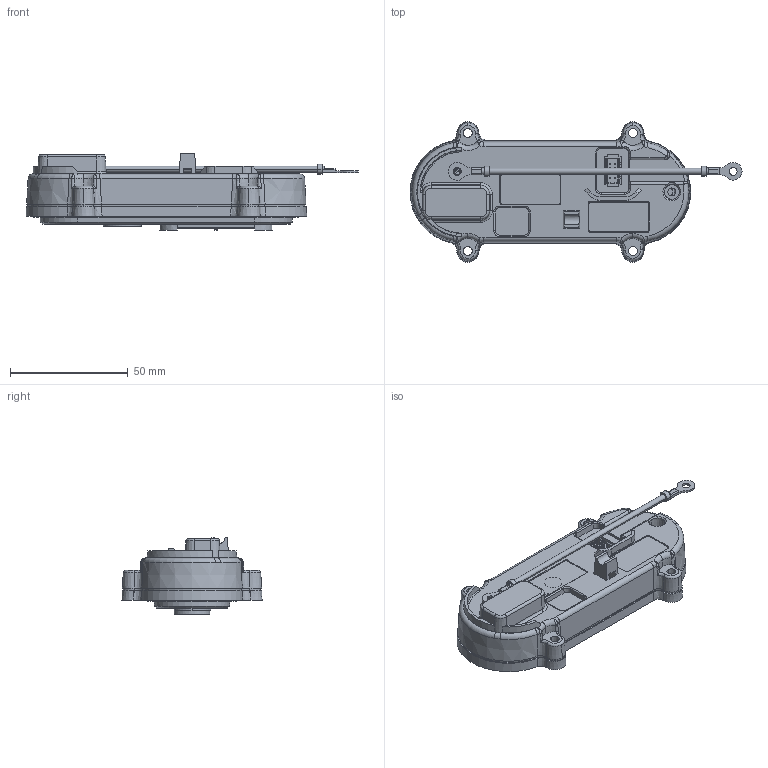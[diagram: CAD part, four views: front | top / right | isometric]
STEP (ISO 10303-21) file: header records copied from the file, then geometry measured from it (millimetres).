
FILE_DESCRIPTION (( 'STEP AP214' ), '1' );
FILE_NAME ('Nav-Bar Audio Module (horz).STEP', '2017-01-10T11:16:47', ( '' ), ( '' ), 'SwSTEP 2.0', 'SolidWorks 2016', '' );
FILE_SCHEMA (( 'AUTOMOTIVE_DESIGN' ));
Length unit declared in the file: millimetre
Products named in the file (1): Nav-Bar Audio Module (horz)
Bounding box: 140.75 x 59.5 x 32.3 mm (x, y, z)
Surface area: 31481.8 mm2 (no closed solid volume)
Topology: 0 solids, 25 shells, 658 faces, 2208 edges, 1565 vertices
Faces by surface type: plane 282, cone 161, cylinder 88, bspline 76, torus 51
Entity records: 34393 total; most frequent: CARTESIAN_POINT 8702, ORIENTED_EDGE 3676, DIRECTION 3664, EDGE_CURVE 2195, VERTEX_POINT 1565, AXIS2_PLACEMENT_3D 1246, LINE 1172, VECTOR 1172
